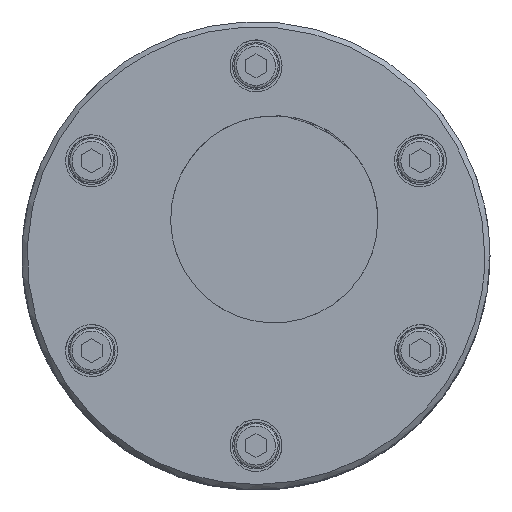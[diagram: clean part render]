
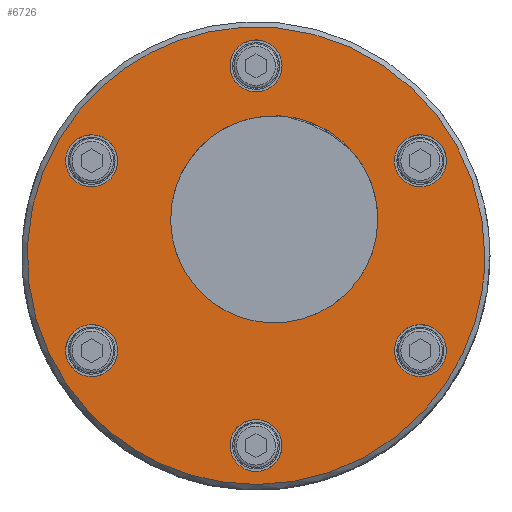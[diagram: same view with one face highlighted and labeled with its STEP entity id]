
A CAD part, top view. The second image highlights one B-rep face of the part: STEP entity #6726.
In plain terms, the highlighted free-form (B-spline) face has degree [1, 1] with [2, 2] control points.
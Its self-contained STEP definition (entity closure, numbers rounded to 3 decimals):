
#3909=CARTESIAN_POINT('V176',(5.0,36.5,
   63.5));
#3910=VERTEX_POINT('V176',#3909);
#3916=CARTESIAN_POINT('E253',(5.0,36.5,
   63.5));
#3917=CARTESIAN_POINT('E253',(5.0,27.84,
   63.5));
#3918=CARTESIAN_POINT('E253',(-2.5,32.17,
   63.5));
#3919=CARTESIAN_POINT('E253',(-10.,36.5,
   63.5));
#3920=CARTESIAN_POINT('E253',(-2.5,40.83,
   63.5));
#3921=CARTESIAN_POINT('E253',(5.0,45.16,
   63.5));
#3922=CARTESIAN_POINT('E253',(5.0,36.5,
   63.5));
#3930=(BOUNDED_CURVE()B_SPLINE_CURVE(2,(#3916,#3917,#3918,#3919,
   #3920,#3921,#3922),.CIRCULAR_ARC.,.T.,.U.)
   B_SPLINE_CURVE_WITH_KNOTS((3,2,2,3),(0.0,1.65,
   3.299,4.949),.UNSPECIFIED.)CURVE()
   GEOMETRIC_REPRESENTATION_ITEM()RATIONAL_B_SPLINE_CURVE((1.0,
   0.5,1.0,0.5,1.0,0.5,1.0)
   )REPRESENTATION_ITEM('E253'));
#3931=EDGE_CURVE('E253',#3910,#3910,#3930,.T.);
#4419=CARTESIAN_POINT('V174',(34.11,13.92,
   63.5));
#4420=VERTEX_POINT('V174',#4419);
#4426=CARTESIAN_POINT('E250',(34.11,13.92,
   63.5));
#4427=CARTESIAN_POINT('E250',(26.61,9.59,
   63.5));
#4428=CARTESIAN_POINT('E250',(26.61,18.25,
   63.5));
#4429=CARTESIAN_POINT('E250',(26.61,26.91,
   63.5));
#4430=CARTESIAN_POINT('E250',(34.11,22.58,
   63.5));
#4431=CARTESIAN_POINT('E250',(41.61,18.25,
   63.5));
#4432=CARTESIAN_POINT('E250',(34.11,13.92,
   63.5));
#4440=(BOUNDED_CURVE()B_SPLINE_CURVE(2,(#4426,#4427,#4428,#4429,
   #4430,#4431,#4432),.CIRCULAR_ARC.,.T.,.U.)
   B_SPLINE_CURVE_WITH_KNOTS((3,2,2,3),(0.0,1.65,
   3.299,4.949),.UNSPECIFIED.)CURVE()
   GEOMETRIC_REPRESENTATION_ITEM()RATIONAL_B_SPLINE_CURVE((1.0,
   0.5,1.0,0.5,1.0,0.5,1.0)
   )REPRESENTATION_ITEM('E250'));
#4441=EDGE_CURVE('E250',#4420,#4420,#4440,.T.);
#4929=CARTESIAN_POINT('V173',(-5.,-36.5,
   63.5));
#4930=VERTEX_POINT('V173',#4929);
#4936=CARTESIAN_POINT('E248',(-5.,-36.5,
   63.5));
#4937=CARTESIAN_POINT('E248',(-5.,-27.84,
   63.5));
#4938=CARTESIAN_POINT('E248',(2.5,-32.17,
   63.5));
#4939=CARTESIAN_POINT('E248',(10.0,-36.5,
   63.5));
#4940=CARTESIAN_POINT('E248',(2.5,-40.83,
   63.5));
#4941=CARTESIAN_POINT('E248',(-5.,-45.16,
   63.5));
#4942=CARTESIAN_POINT('E248',(-5.,-36.5,
   63.5));
#4950=(BOUNDED_CURVE()B_SPLINE_CURVE(2,(#4936,#4937,#4938,#4939,
   #4940,#4941,#4942),.CIRCULAR_ARC.,.T.,.U.)
   B_SPLINE_CURVE_WITH_KNOTS((3,2,2,3),(0.0,1.65,
   3.299,4.949),.UNSPECIFIED.)CURVE()
   GEOMETRIC_REPRESENTATION_ITEM()RATIONAL_B_SPLINE_CURVE((1.0,
   0.5,1.0,0.5,1.0,0.5,1.0)
   )REPRESENTATION_ITEM('E248'));
#4951=EDGE_CURVE('E248',#4930,#4930,#4950,.T.);
#5439=CARTESIAN_POINT('V172',(-34.11,
   -13.92,63.5));
#5440=VERTEX_POINT('V172',#5439);
#5446=CARTESIAN_POINT('E246',(-34.11,
   -13.92,63.5));
#5447=CARTESIAN_POINT('E246',(-26.61,-9.59,
   63.5));
#5448=CARTESIAN_POINT('E246',(-26.61,
   -18.25,63.5));
#5449=CARTESIAN_POINT('E246',(-26.61,
   -26.91,63.5));
#5450=CARTESIAN_POINT('E246',(-34.11,
   -22.58,63.5));
#5451=CARTESIAN_POINT('E246',(-41.61,
   -18.25,63.5));
#5452=CARTESIAN_POINT('E246',(-34.11,
   -13.92,63.5));
#5460=(BOUNDED_CURVE()B_SPLINE_CURVE(2,(#5446,#5447,#5448,#5449,
   #5450,#5451,#5452),.CIRCULAR_ARC.,.T.,.U.)
   B_SPLINE_CURVE_WITH_KNOTS((3,2,2,3),(0.0,1.65,
   3.299,4.949),.UNSPECIFIED.)CURVE()
   GEOMETRIC_REPRESENTATION_ITEM()RATIONAL_B_SPLINE_CURVE((1.0,
   0.5,1.0,0.5,1.0,0.5,1.0)
   )REPRESENTATION_ITEM('E246'));
#5461=EDGE_CURVE('E246',#5440,#5440,#5460,.T.);
#5949=CARTESIAN_POINT('V170',(-29.11,22.58,
   63.5));
#5950=VERTEX_POINT('V170',#5949);
#5956=CARTESIAN_POINT('E243',(-29.11,22.58,
   63.5));
#5957=CARTESIAN_POINT('E243',(-21.61,18.25,
   63.5));
#5958=CARTESIAN_POINT('E243',(-29.11,13.92,
   63.5));
#5959=CARTESIAN_POINT('E243',(-36.61,9.59,
   63.5));
#5960=CARTESIAN_POINT('E243',(-36.61,18.25,
   63.5));
#5961=CARTESIAN_POINT('E243',(-36.61,26.91,
   63.5));
#5962=CARTESIAN_POINT('E243',(-29.11,22.58,
   63.5));
#5970=(BOUNDED_CURVE()B_SPLINE_CURVE(2,(#5956,#5957,#5958,#5959,
   #5960,#5961,#5962),.CIRCULAR_ARC.,.T.,.U.)
   B_SPLINE_CURVE_WITH_KNOTS((3,2,2,3),(0.0,1.65,
   3.299,4.949),.UNSPECIFIED.)CURVE()
   GEOMETRIC_REPRESENTATION_ITEM()RATIONAL_B_SPLINE_CURVE((1.0,
   0.5,1.0,0.5,1.0,0.5,1.0)
   )REPRESENTATION_ITEM('E243'));
#5971=EDGE_CURVE('E243',#5950,#5950,#5970,.T.);
#6459=CARTESIAN_POINT('V169',(29.11,-22.58,
   63.5));
#6460=VERTEX_POINT('V169',#6459);
#6466=CARTESIAN_POINT('E241',(29.11,-22.58,
   63.5));
#6467=CARTESIAN_POINT('E241',(21.61,-18.25,
   63.5));
#6468=CARTESIAN_POINT('E241',(29.11,-13.92,
   63.5));
#6469=CARTESIAN_POINT('E241',(36.61,-9.59,
   63.5));
#6470=CARTESIAN_POINT('E241',(36.61,-18.25,
   63.5));
#6471=CARTESIAN_POINT('E241',(36.61,-26.91,
   63.5));
#6472=CARTESIAN_POINT('E241',(29.11,-22.58,
   63.5));
#6480=(BOUNDED_CURVE()B_SPLINE_CURVE(2,(#6466,#6467,#6468,#6469,
   #6470,#6471,#6472),.CIRCULAR_ARC.,.T.,.U.)
   B_SPLINE_CURVE_WITH_KNOTS((3,2,2,3),(0.0,1.65,
   3.299,4.949),.UNSPECIFIED.)CURVE()
   GEOMETRIC_REPRESENTATION_ITEM()RATIONAL_B_SPLINE_CURVE((1.0,
   0.5,1.0,0.5,1.0,0.5,1.0)
   )REPRESENTATION_ITEM('E241'));
#6481=EDGE_CURVE('E241',#6460,#6460,#6480,.T.);
#6649=CARTESIAN_POINT('V178',(23.42,7.0,
   63.5));
#6650=VERTEX_POINT('V178',#6649);
#6656=CARTESIAN_POINT('E255',(23.42,7.0,
   63.5));
#6657=CARTESIAN_POINT('E255',(23.42,-27.502,
   63.5));
#6658=CARTESIAN_POINT('E255',(-6.46,-10.251,
   63.5));
#6659=CARTESIAN_POINT('E255',(-36.34,7.,
   63.5));
#6660=CARTESIAN_POINT('E255',(-6.46,24.251,
   63.5));
#6661=CARTESIAN_POINT('E255',(23.42,41.502,
   63.5));
#6662=CARTESIAN_POINT('E255',(23.42,7.0,
   63.5));
#6670=(BOUNDED_CURVE()B_SPLINE_CURVE(2,(#6656,#6657,#6658,#6659,
   #6660,#6661,#6662),.CIRCULAR_ARC.,.T.,.U.)
   B_SPLINE_CURVE_WITH_KNOTS((3,2,2,3),(0.0,2.76,
   5.52,8.281),.UNSPECIFIED.)CURVE()
   GEOMETRIC_REPRESENTATION_ITEM()RATIONAL_B_SPLINE_CURVE((1.0,
   0.5,1.0,0.5,1.0,0.5,1.0)
   )REPRESENTATION_ITEM('E255'));
#6671=EDGE_CURVE('E255',#6650,#6650,#6670,.T.);
#6679=CARTESIAN_POINT('F112',(-49.5,
   -48.992,63.5));
#6680=CARTESIAN_POINT('F112',(49.5,-48.992,
   63.5));
#6681=CARTESIAN_POINT('F112',(-49.5,48.992,
   63.5));
#6682=CARTESIAN_POINT('F112',(49.5,48.992,
   63.5));
#6683=QUASI_UNIFORM_SURFACE('F112',1,1,((#6679,#6681),(#6680,
   #6682)),.PLANE_SURF.,.F.,.F.,.U.);
#6684=CARTESIAN_POINT('V177',(44.0,0.,63.5)
   );
#6685=VERTEX_POINT('V177',#6684);
#6686=CARTESIAN_POINT('E254',(44.0,0.,63.5)
   );
#6687=CARTESIAN_POINT('E254',(44.0,76.21,
   63.5));
#6688=CARTESIAN_POINT('E254',(-22.0,38.105,
   63.5));
#6689=CARTESIAN_POINT('E254',(-88.0,0.,
   63.5));
#6690=CARTESIAN_POINT('E254',(-22.0,-38.105,
   63.5));
#6691=CARTESIAN_POINT('E254',(44.0,-76.21,
   63.5));
#6692=CARTESIAN_POINT('E254',(44.0,0.,63.5)
   );
#6700=(BOUNDED_CURVE()B_SPLINE_CURVE(2,(#6686,#6687,#6688,#6689,
   #6690,#6691,#6692),.CIRCULAR_ARC.,.T.,.U.)
   B_SPLINE_CURVE_WITH_KNOTS((3,2,2,3),(2.0,67.162,
   132.325,197.487),.UNSPECIFIED.)CURVE()
   GEOMETRIC_REPRESENTATION_ITEM()RATIONAL_B_SPLINE_CURVE((1.0,
   0.5,1.0,0.5,1.0,0.5,1.0)
   )REPRESENTATION_ITEM('E254'));
#6701=EDGE_CURVE('E254',#6685,#6685,#6700,.T.);
#6702=ORIENTED_EDGE('E254',*,*,#6701,.T.);
#6703=EDGE_LOOP('F112',(#6702));
#6704=FACE_OUTER_BOUND('F112',#6703,.T.);
#6705=ORIENTED_EDGE('E255',*,*,#6671,.T.);
#6706=EDGE_LOOP('F112',(#6705));
#6707=FACE_BOUND('F112',#6706,.T.);
#6708=ORIENTED_EDGE('E241',*,*,#6481,.T.);
#6709=EDGE_LOOP('F112',(#6708));
#6710=FACE_BOUND('F112',#6709,.T.);
#6711=ORIENTED_EDGE('E243',*,*,#5971,.T.);
#6712=EDGE_LOOP('F112',(#6711));
#6713=FACE_BOUND('F112',#6712,.T.);
#6714=ORIENTED_EDGE('E246',*,*,#5461,.T.);
#6715=EDGE_LOOP('F112',(#6714));
#6716=FACE_BOUND('F112',#6715,.T.);
#6717=ORIENTED_EDGE('E248',*,*,#4951,.T.);
#6718=EDGE_LOOP('F112',(#6717));
#6719=FACE_BOUND('F112',#6718,.T.);
#6720=ORIENTED_EDGE('E250',*,*,#4441,.T.);
#6721=EDGE_LOOP('F112',(#6720));
#6722=FACE_BOUND('F112',#6721,.T.);
#6723=ORIENTED_EDGE('E253',*,*,#3931,.T.);
#6724=EDGE_LOOP('F112',(#6723));
#6725=FACE_BOUND('F112',#6724,.T.);
#6726=ADVANCED_FACE('F112',(#6704,#6707,#6710,#6713,#6716,#6719,
   #6722,#6725),#6683,.T.);
